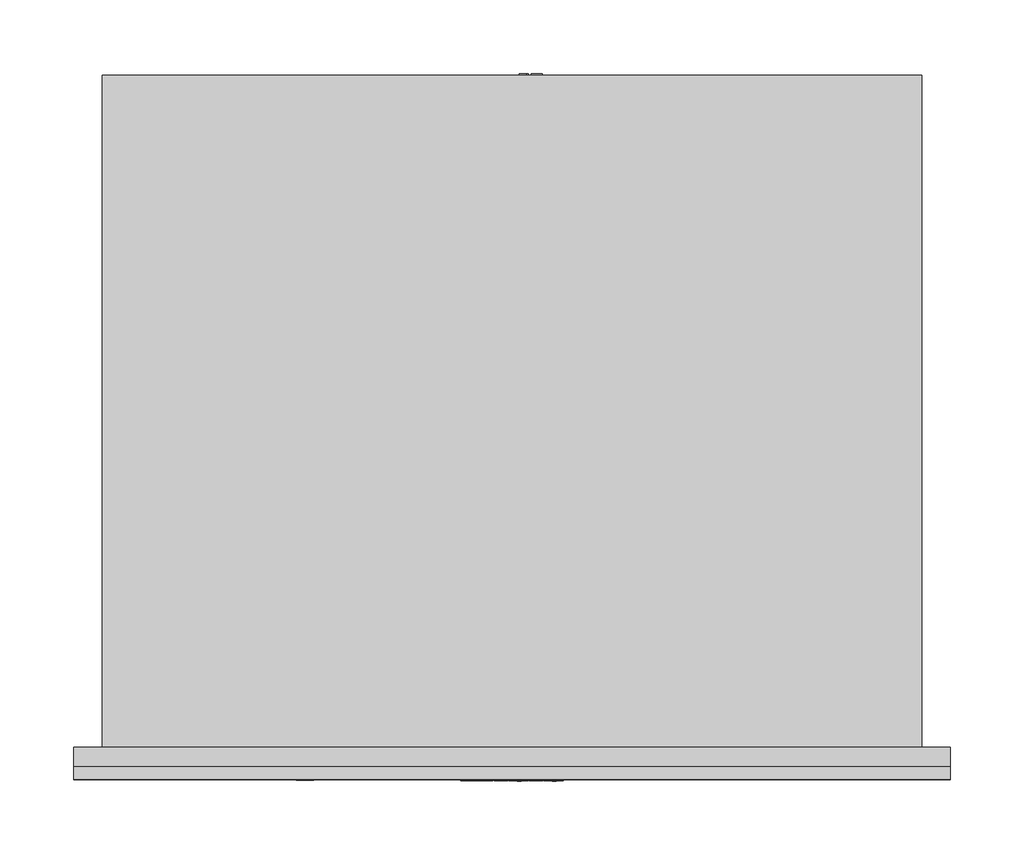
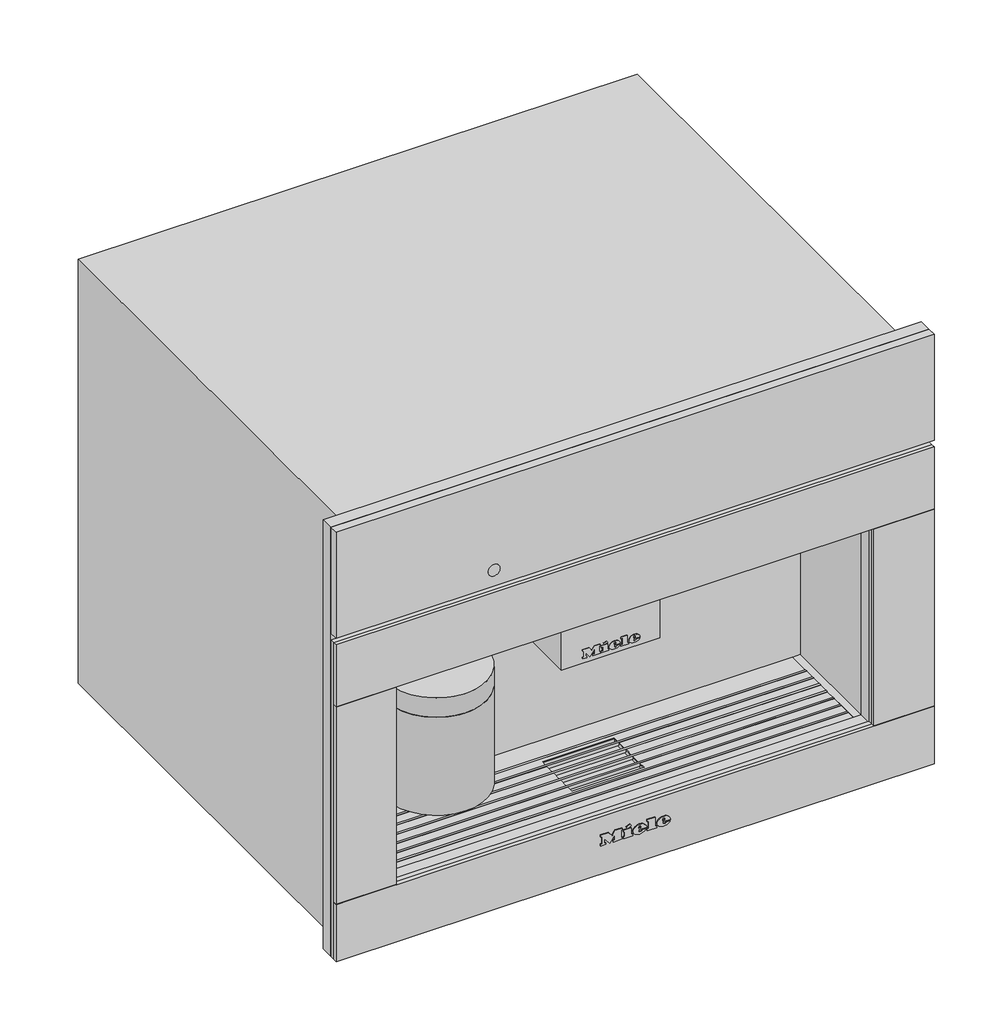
# Not in any storey: 1 proxy.
"""IFC4 building model written with IfcOpenShell, lengths in millimetres."""

from ifc_helpers import new_model, si_unit, origin, place, context, project, spatial, transform, mapped, element, save
from components import specialty_equipment_58c7fb0d

model = new_model("IFC4")

# Units and contexts
model_context = context("Model", 3, world=origin())
ifc_project = project(units=[si_unit("LENGTHUNIT", "METRE", prefix="MILLI")], contexts=[model_context])

# Site, building
site = spatial("IfcSite", under=ifc_project)
building = spatial("IfcBuilding", under=site)

# Proxy
placement = place(None, origin())
specialty_equipment_shape = specialty_equipment_58c7fb0d(model_context)
element("IfcBuildingElementProxy", 1, Name="12388700_CZ_CVA7440_OBSWMATT : 29744021_CZ_12388700_CVA7440_OBSWMATT", ObjectType="12388700_CZ_CVA7440_OBSWMATT : 29744021_CZ_12388700_CVA7440_OBSWMATT", at=placement, inside=building, context=model_context, shape_type="MappedRepresentation", body=[
    mapped(specialty_equipment_shape, transform((0.0, 0.0, 0.0), x_axis=(1.0, 0.0, 0.0), y_axis=(0.0, 1.0, 0.0), z_axis=(0.0, 0.0, 1.0))),
])

save(model, "model.ifc")
